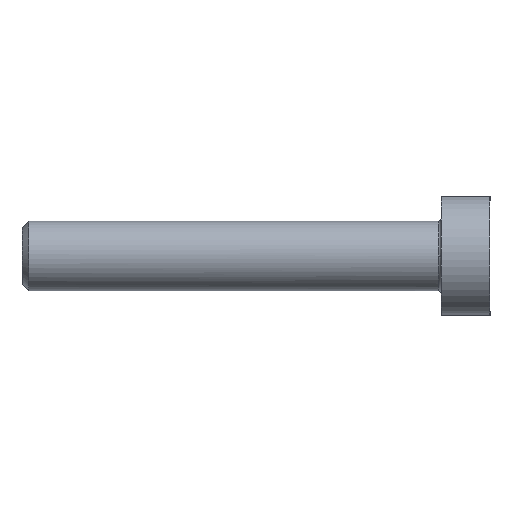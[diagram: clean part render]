
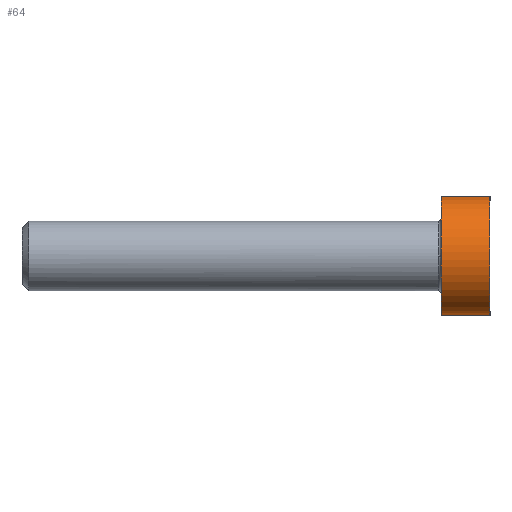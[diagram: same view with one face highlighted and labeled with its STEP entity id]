
A CAD part, left-side view. The second image highlights one B-rep face of the part: STEP entity #64.
In plain terms, the highlighted free-form (B-spline) face has degree [2, 1] with [9, 2] control points.
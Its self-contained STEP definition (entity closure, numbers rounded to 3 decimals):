
#64=ADVANCED_FACE('',(#114),#1560,.T.);
#114=FACE_OUTER_BOUND('',#165,.T.);
#165=EDGE_LOOP('',(#297,#298,#299,#300));
#297=ORIENTED_EDGE('',*,*,#1077,.F.);
#298=ORIENTED_EDGE('',*,*,#1133,.T.);
#299=ORIENTED_EDGE('',*,*,#1079,.F.);
#300=ORIENTED_EDGE('',*,*,#1132,.F.);
#457=(
BOUNDED_CURVE()
B_SPLINE_CURVE(2,(#2371,#2372,#2373,#2374,#2375),.UNSPECIFIED.,.F.,.F.)
B_SPLINE_CURVE_WITH_KNOTS((3,2,3),(-13.352,-6.676,0.),
 .UNSPECIFIED.)
CURVE()
GEOMETRIC_REPRESENTATION_ITEM()
RATIONAL_B_SPLINE_CURVE((1.,0.707,1.,0.707,1.))
REPRESENTATION_ITEM('')
);
#458=(
BOUNDED_CURVE()
B_SPLINE_CURVE(2,(#2376,#2377,#2378,#2379,#2380),.UNSPECIFIED.,.F.,.F.)
B_SPLINE_CURVE_WITH_KNOTS((3,2,3),(-13.352,-6.676,0.),
 .UNSPECIFIED.)
CURVE()
GEOMETRIC_REPRESENTATION_ITEM()
RATIONAL_B_SPLINE_CURVE((1.,0.707,1.,0.707,1.))
REPRESENTATION_ITEM('')
);
#462=(
BOUNDED_CURVE()
B_SPLINE_CURVE(2,(#2394,#2395,#2396,#2397,#2398),.UNSPECIFIED.,.F.,.F.)
B_SPLINE_CURVE_WITH_KNOTS((3,2,3),(-13.352,-6.676,0.),
 .UNSPECIFIED.)
CURVE()
GEOMETRIC_REPRESENTATION_ITEM()
RATIONAL_B_SPLINE_CURVE((1.,0.707,1.,0.707,1.))
REPRESENTATION_ITEM('')
);
#463=(
BOUNDED_CURVE()
B_SPLINE_CURVE(2,(#2405,#2406,#2407,#2408,#2409),.UNSPECIFIED.,.F.,.F.)
B_SPLINE_CURVE_WITH_KNOTS((3,2,3),(-13.352,-6.676,0.),
 .UNSPECIFIED.)
CURVE()
GEOMETRIC_REPRESENTATION_ITEM()
RATIONAL_B_SPLINE_CURVE((1.,0.707,1.,0.707,1.))
REPRESENTATION_ITEM('')
);
#507=PCURVE('',#1551,#735);
#509=PCURVE('',#1551,#737);
#605=PCURVE('',#1534,#833);
#609=PCURVE('',#1560,#837);
#610=PCURVE('',#1560,#838);
#611=PCURVE('',#1560,#839);
#612=PCURVE('',#1560,#840);
#613=PCURVE('',#1535,#841);
#735=DEFINITIONAL_REPRESENTATION('',(#1192),#3200);
#737=DEFINITIONAL_REPRESENTATION('',(#1195),#3200);
#833=DEFINITIONAL_REPRESENTATION('',(#458),#3200);
#837=DEFINITIONAL_REPRESENTATION('',(#1310),#3200);
#838=DEFINITIONAL_REPRESENTATION('',(#1311),#3200);
#839=DEFINITIONAL_REPRESENTATION('',(#1312),#3200);
#840=DEFINITIONAL_REPRESENTATION('',(#1313),#3200);
#841=DEFINITIONAL_REPRESENTATION('',(#463),#3200);
#963=SURFACE_CURVE('',#1191,(#507,#609),.PCURVE_S1.);
#965=SURFACE_CURVE('',#1194,(#509,#611),.PCURVE_S1.);
#1018=SURFACE_CURVE('',#457,(#605,#612),.PCURVE_S1.);
#1019=SURFACE_CURVE('',#462,(#610,#613),.PCURVE_S1.);
#1077=EDGE_CURVE('',#1449,#1450,#963,.T.);
#1079=EDGE_CURVE('',#1451,#1452,#965,.T.);
#1132=EDGE_CURVE('',#1450,#1451,#1018,.T.);
#1133=EDGE_CURVE('',#1449,#1452,#1019,.T.);
#1191=B_SPLINE_CURVE_WITH_KNOTS('',1,(#2011,#2012),.UNSPECIFIED.,.F.,.F.,
(2,2),(-3.5,0.),.UNSPECIFIED.);
#1192=B_SPLINE_CURVE_WITH_KNOTS('',1,(#2013,#2014),.UNSPECIFIED.,.F.,.F.,
(2,2),(-3.5,0.),.UNSPECIFIED.);
#1194=B_SPLINE_CURVE_WITH_KNOTS('',1,(#2022,#2023),.UNSPECIFIED.,.F.,.F.,
(2,2),(-3.5,0.),.UNSPECIFIED.);
#1195=B_SPLINE_CURVE_WITH_KNOTS('',1,(#2024,#2025),.UNSPECIFIED.,.F.,.F.,
(2,2),(-3.5,0.),.UNSPECIFIED.);
#1310=B_SPLINE_CURVE_WITH_KNOTS('',1,(#2392,#2393),.UNSPECIFIED.,.F.,.F.,
(2,2),(-3.5,0.),.UNSPECIFIED.);
#1311=B_SPLINE_CURVE_WITH_KNOTS('',1,(#2399,#2400),.UNSPECIFIED.,.F.,.F.,
(2,2),(-13.352,0.),.UNSPECIFIED.);
#1312=B_SPLINE_CURVE_WITH_KNOTS('',1,(#2401,#2402),.UNSPECIFIED.,.F.,.F.,
(2,2),(-3.5,0.),.UNSPECIFIED.);
#1313=B_SPLINE_CURVE_WITH_KNOTS('',1,(#2403,#2404),.UNSPECIFIED.,.F.,.F.,
(2,2),(-13.352,0.),.UNSPECIFIED.);
#1449=VERTEX_POINT('',#1975);
#1450=VERTEX_POINT('',#1976);
#1451=VERTEX_POINT('',#1977);
#1452=VERTEX_POINT('',#1978);
#1534=PLANE('',#1604);
#1535=PLANE('',#1605);
#1551=(
BOUNDED_SURFACE()
B_SPLINE_SURFACE(2,1,((#1654,#1655),(#1656,#1657),(#1658,#1659),(#1660,#1661),
(#1662,#1663),(#1664,#1665),(#1666,#1667),(#1668,#1669),(#1670,#1671)),
 .UNSPECIFIED.,.T.,.F.,.F.)
B_SPLINE_SURFACE_WITH_KNOTS((3,2,2,2,3),(2,2),(0.,1.571,3.142,
4.712,6.283),(0.,4.202),.UNSPECIFIED.)
GEOMETRIC_REPRESENTATION_ITEM()
RATIONAL_B_SPLINE_SURFACE(((1.,1.),(0.707,0.707),
(1.,1.),(0.707,0.707),(1.,1.),(0.707,
0.707),(1.,1.),(0.707,0.707),(1.,1.)))
REPRESENTATION_ITEM('')
SURFACE()
);
#1560=(
BOUNDED_SURFACE()
B_SPLINE_SURFACE(2,1,((#1956,#1957),(#1958,#1959),(#1960,#1961),(#1962,#1963),
(#1964,#1965),(#1966,#1967),(#1968,#1969),(#1970,#1971),(#1972,#1973)),
 .UNSPECIFIED.,.T.,.F.,.F.)
B_SPLINE_SURFACE_WITH_KNOTS((3,2,2,2,3),(2,2),(0.,1.571,3.142,
4.712,6.283),(0.,4.202),.UNSPECIFIED.)
GEOMETRIC_REPRESENTATION_ITEM()
RATIONAL_B_SPLINE_SURFACE(((1.,1.),(0.707,0.707),
(1.,1.),(0.707,0.707),(1.,1.),(0.707,
0.707),(1.,1.),(0.707,0.707),(1.,1.)))
REPRESENTATION_ITEM('')
SURFACE()
);
#1604=AXIS2_PLACEMENT_3D('',#1955,#1636,$);
#1605=AXIS2_PLACEMENT_3D('',#1974,#1637,$);
#1636=DIRECTION('',(0.,-1.,0.));
#1637=DIRECTION('',(0.,1.,0.));
#1654=CARTESIAN_POINT('',(-508.25,65.149,31.));
#1655=CARTESIAN_POINT('',(-508.25,69.351,31.));
#1656=CARTESIAN_POINT('',(-508.25,65.149,26.75));
#1657=CARTESIAN_POINT('',(-508.25,69.351,26.75));
#1658=CARTESIAN_POINT('',(-504.,65.149,26.75));
#1659=CARTESIAN_POINT('',(-504.,69.351,26.75));
#1660=CARTESIAN_POINT('',(-499.75,65.149,26.75));
#1661=CARTESIAN_POINT('',(-499.75,69.351,26.75));
#1662=CARTESIAN_POINT('',(-499.75,65.149,31.));
#1663=CARTESIAN_POINT('',(-499.75,69.351,31.));
#1664=CARTESIAN_POINT('',(-499.75,65.149,35.25));
#1665=CARTESIAN_POINT('',(-499.75,69.351,35.25));
#1666=CARTESIAN_POINT('',(-504.,65.149,35.25));
#1667=CARTESIAN_POINT('',(-504.,69.351,35.25));
#1668=CARTESIAN_POINT('',(-508.25,65.149,35.25));
#1669=CARTESIAN_POINT('',(-508.25,69.351,35.25));
#1670=CARTESIAN_POINT('',(-508.25,65.149,31.));
#1671=CARTESIAN_POINT('',(-508.25,69.351,31.));
#1955=CARTESIAN_POINT('',(-509.101,69.,36.101));
#1956=CARTESIAN_POINT('',(-499.75,65.149,31.));
#1957=CARTESIAN_POINT('',(-499.75,69.351,31.));
#1958=CARTESIAN_POINT('',(-499.75,65.149,35.25));
#1959=CARTESIAN_POINT('',(-499.75,69.351,35.25));
#1960=CARTESIAN_POINT('',(-504.,65.149,35.25));
#1961=CARTESIAN_POINT('',(-504.,69.351,35.25));
#1962=CARTESIAN_POINT('',(-508.25,65.149,35.25));
#1963=CARTESIAN_POINT('',(-508.25,69.351,35.25));
#1964=CARTESIAN_POINT('',(-508.25,65.149,31.));
#1965=CARTESIAN_POINT('',(-508.25,69.351,31.));
#1966=CARTESIAN_POINT('',(-508.25,65.149,26.75));
#1967=CARTESIAN_POINT('',(-508.25,69.351,26.75));
#1968=CARTESIAN_POINT('',(-504.,65.149,26.75));
#1969=CARTESIAN_POINT('',(-504.,69.351,26.75));
#1970=CARTESIAN_POINT('',(-499.75,65.149,26.75));
#1971=CARTESIAN_POINT('',(-499.75,69.351,26.75));
#1972=CARTESIAN_POINT('',(-499.75,65.149,31.));
#1973=CARTESIAN_POINT('',(-499.75,69.351,31.));
#1974=CARTESIAN_POINT('',(-509.101,65.5,25.899));
#1975=CARTESIAN_POINT('',(-504.,65.5,35.25));
#1976=CARTESIAN_POINT('',(-504.,69.,35.25));
#1977=CARTESIAN_POINT('',(-504.,69.,26.75));
#1978=CARTESIAN_POINT('',(-504.,65.5,26.75));
#2011=CARTESIAN_POINT('',(-504.,65.5,35.25));
#2012=CARTESIAN_POINT('',(-504.,69.,35.25));
#2013=CARTESIAN_POINT('',(4.712,0.351));
#2014=CARTESIAN_POINT('',(4.712,3.851));
#2022=CARTESIAN_POINT('',(-504.,69.,26.75));
#2023=CARTESIAN_POINT('',(-504.,65.5,26.75));
#2024=CARTESIAN_POINT('',(1.571,3.851));
#2025=CARTESIAN_POINT('',(1.571,0.351));
#2371=CARTESIAN_POINT('',(-504.,69.,35.25));
#2372=CARTESIAN_POINT('',(-508.25,69.,35.25));
#2373=CARTESIAN_POINT('',(-508.25,69.,31.));
#2374=CARTESIAN_POINT('',(-508.25,69.,26.75));
#2375=CARTESIAN_POINT('',(-504.,69.,26.75));
#2376=CARTESIAN_POINT('',(-0.775,0.));
#2377=CARTESIAN_POINT('',(-0.775,-4.25));
#2378=CARTESIAN_POINT('',(3.475,-4.25));
#2379=CARTESIAN_POINT('',(7.725,-4.25));
#2380=CARTESIAN_POINT('',(7.725,0.));
#2392=CARTESIAN_POINT('',(1.571,0.351));
#2393=CARTESIAN_POINT('',(1.571,3.851));
#2394=CARTESIAN_POINT('',(-504.,65.5,35.25));
#2395=CARTESIAN_POINT('',(-508.25,65.5,35.25));
#2396=CARTESIAN_POINT('',(-508.25,65.5,31.));
#2397=CARTESIAN_POINT('',(-508.25,65.5,26.75));
#2398=CARTESIAN_POINT('',(-504.,65.5,26.75));
#2399=CARTESIAN_POINT('',(1.571,0.351));
#2400=CARTESIAN_POINT('',(4.712,0.351));
#2401=CARTESIAN_POINT('',(4.712,3.851));
#2402=CARTESIAN_POINT('',(4.712,0.351));
#2403=CARTESIAN_POINT('',(1.571,3.851));
#2404=CARTESIAN_POINT('',(4.712,3.851));
#2405=CARTESIAN_POINT('',(2.125,0.));
#2406=CARTESIAN_POINT('',(2.125,-4.25));
#2407=CARTESIAN_POINT('',(-2.125,-4.25));
#2408=CARTESIAN_POINT('',(-6.375,-4.25));
#2409=CARTESIAN_POINT('',(-6.375,0.));
#3200=(
GEOMETRIC_REPRESENTATION_CONTEXT(2)
PARAMETRIC_REPRESENTATION_CONTEXT()
REPRESENTATION_CONTEXT('pspace','')
);
